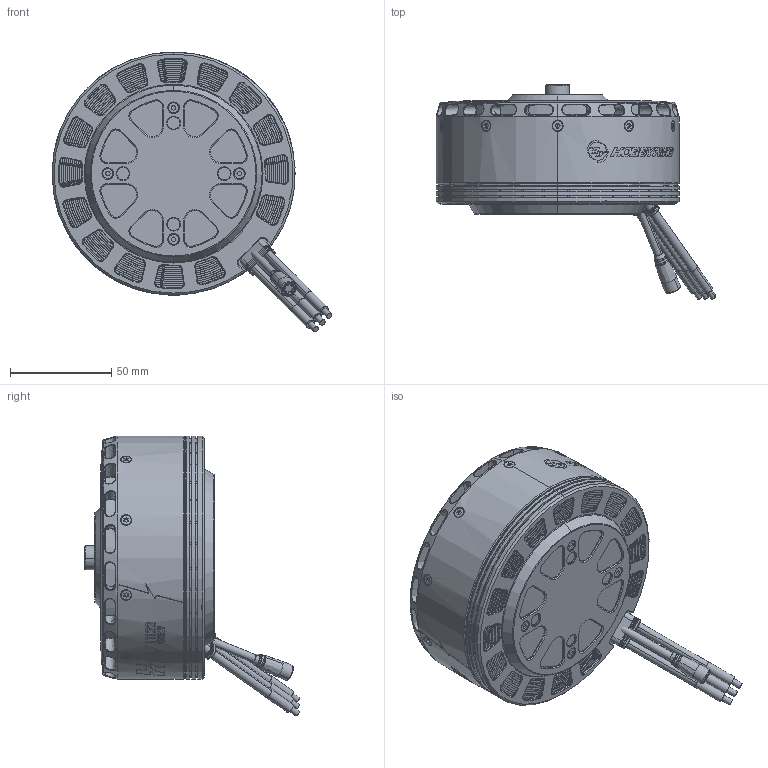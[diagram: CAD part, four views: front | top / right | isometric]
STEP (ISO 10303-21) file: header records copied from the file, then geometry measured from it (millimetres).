
FILE_DESCRIPTION (( 'STEP AP203' ), '1' );
FILE_NAME ('305310367AB-UAVM-HV-11122-60KV-BLACK-T1-HW-IPC.STEP', '2024-07-31T12:48:16', ( '' ), ( '' ), 'SwSTEP 2.0', 'SolidWorks 2021', '' );
FILE_SCHEMA (( 'CONFIG_CONTROL_DESIGN' ));
Length unit declared in the file: millimetre
Products named in the file (1): 305310367AB-UAVM-HV-11122-60KV-BLACK-T1-HW-IPC
Bounding box: 138.28 x 105.86 x 138.28 mm (x, y, z)
Volume: 593414.1 mm3; surface area: 65463.7 mm2
Topology: 6 solids, 12 shells, 3311 faces, 8917 edges, 5575 vertices
Faces by surface type: plane 1718, cylinder 698, bspline 521, cone 290, torus 68, sphere 16
Entity records: 170798 total; most frequent: CARTESIAN_POINT 91655, ORIENTED_EDGE 17806, DIRECTION 14727, EDGE_CURVE 8903, VERTEX_POINT 5575, AXIS2_PLACEMENT_3D 5143, VECTOR 4441, LINE 4441
